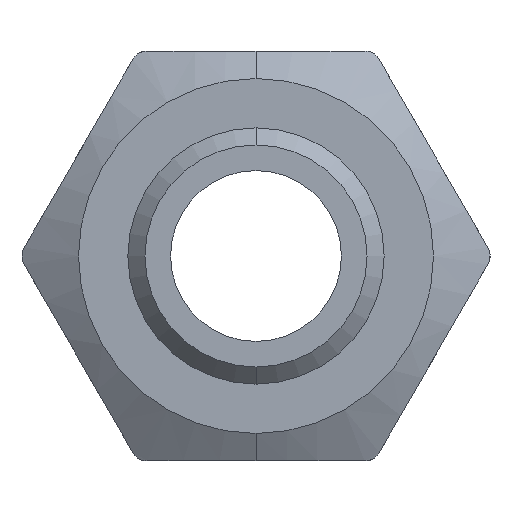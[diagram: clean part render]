
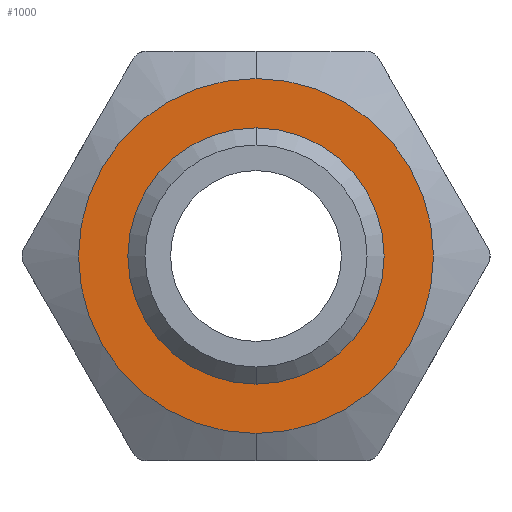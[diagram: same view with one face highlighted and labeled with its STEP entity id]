
A CAD part, front view. The second image highlights one B-rep face of the part: STEP entity #1000.
In plain terms, the highlighted planar face has unit normal (0, -1, 0).
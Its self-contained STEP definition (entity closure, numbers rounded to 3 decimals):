
#15 = EDGE_LOOP ( 'NONE', ( #482, #29 ) ) ;
#28 = AXIS2_PLACEMENT_3D ( 'NONE', #35, #470, #294 ) ;
#29 = ORIENTED_EDGE ( 'NONE', *, *, #417, .F. ) ;
#35 = CARTESIAN_POINT ( 'NONE',  ( 0., 37., 0. ) ) ;
#47 = ORIENTED_EDGE ( 'NONE', *, *, #105, .T. ) ;
#105 = EDGE_CURVE ( 'NONE', #588, #831, #894, .T. ) ;
#112 = DIRECTION ( 'NONE',  ( 0., -1., 0. ) ) ;
#129 = DIRECTION ( 'NONE',  ( 0., 0., -1. ) ) ;
#156 = CARTESIAN_POINT ( 'NONE',  ( 0., 37., -10.392 ) ) ;
#210 = AXIS2_PLACEMENT_3D ( 'NONE', #855, #359, #354 ) ;
#217 = CARTESIAN_POINT ( 'NONE',  ( 0., 37., 10.392 ) ) ;
#224 = CARTESIAN_POINT ( 'NONE',  ( 0., 37., 0. ) ) ;
#262 = AXIS2_PLACEMENT_3D ( 'NONE', #224, #321, #129 ) ;
#266 = DIRECTION ( 'NONE',  ( 0., 1., 0. ) ) ;
#294 = DIRECTION ( 'NONE',  ( 0., 0., -1. ) ) ;
#321 = DIRECTION ( 'NONE',  ( 0., -1., 0. ) ) ;
#354 = DIRECTION ( 'NONE',  ( 0., 0., -1. ) ) ;
#359 = DIRECTION ( 'NONE',  ( 0., -1., 0. ) ) ;
#410 = VERTEX_POINT ( 'NONE', #1040 ) ;
#417 = EDGE_CURVE ( 'NONE', #410, #493, #849, .T. ) ;
#463 = EDGE_CURVE ( 'NONE', #831, #588, #607, .T. ) ;
#465 = CARTESIAN_POINT ( 'NONE',  ( 0., 37., -7.5 ) ) ;
#470 = DIRECTION ( 'NONE',  ( 0., -1., 0. ) ) ;
#482 = ORIENTED_EDGE ( 'NONE', *, *, #1023, .F. ) ;
#493 = VERTEX_POINT ( 'NONE', #465 ) ;
#533 = AXIS2_PLACEMENT_3D ( 'NONE', #779, #266, #937 ) ;
#588 = VERTEX_POINT ( 'NONE', #156 ) ;
#607 = CIRCLE ( 'NONE', #262, 10.392 ) ;
#632 = CARTESIAN_POINT ( 'NONE',  ( 0., 37., 0. ) ) ;
#779 = CARTESIAN_POINT ( 'NONE',  ( -7.5, 37., 0. ) ) ;
#807 = EDGE_LOOP ( 'NONE', ( #973, #47 ) ) ;
#831 = VERTEX_POINT ( 'NONE', #217 ) ;
#833 = AXIS2_PLACEMENT_3D ( 'NONE', #632, #112, #888 ) ;
#837 = FACE_OUTER_BOUND ( 'NONE', #807, .T. ) ;
#849 = CIRCLE ( 'NONE', #28, 7.5 ) ;
#855 = CARTESIAN_POINT ( 'NONE',  ( 0., 37., 0. ) ) ;
#888 = DIRECTION ( 'NONE',  ( 0., 0., -1. ) ) ;
#894 = CIRCLE ( 'NONE', #833, 10.392 ) ;
#912 = FACE_BOUND ( 'NONE', #15, .T. ) ;
#937 = DIRECTION ( 'NONE',  ( 0., 0., 1. ) ) ;
#973 = ORIENTED_EDGE ( 'NONE', *, *, #463, .T. ) ;
#975 = CIRCLE ( 'NONE', #210, 7.5 ) ;
#999 = PLANE ( 'NONE',  #533 ) ;
#1000 = ADVANCED_FACE ( 'NONE', ( #837, #912 ), #999, .F. ) ;
#1023 = EDGE_CURVE ( 'NONE', #493, #410, #975, .T. ) ;
#1040 = CARTESIAN_POINT ( 'NONE',  ( 0., 37., 7.5 ) ) ;
